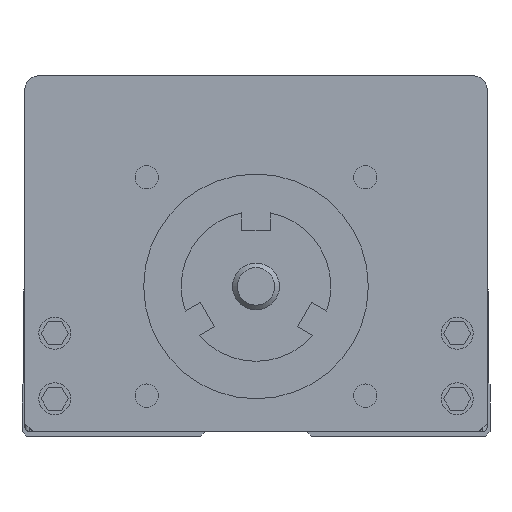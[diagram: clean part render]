
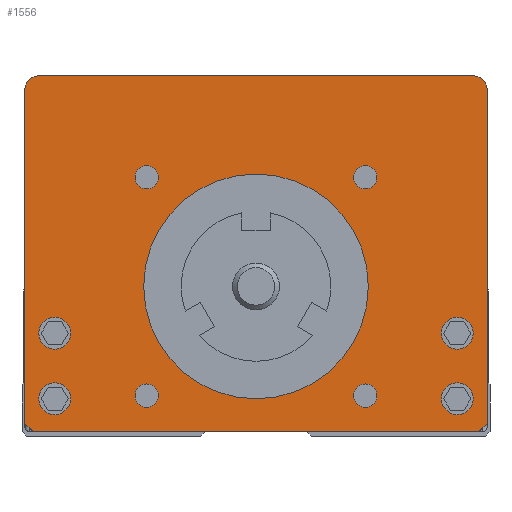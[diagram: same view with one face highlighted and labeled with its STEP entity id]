
A CAD part, front view. The second image highlights one B-rep face of the part: STEP entity #1556.
In plain terms, the highlighted planar face has unit normal (0, -1, 0).
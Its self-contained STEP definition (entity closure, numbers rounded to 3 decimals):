
#1556=ADVANCED_FACE('',(#4165,#4166,#4167,#4168,#4169,#4170,#4171,#4172,
#4173,#4174),#2031,.F.);
#2031=PLANE('',#11381);
#2403=LINE('',#15621,#3291);
#2436=LINE('',#15786,#3324);
#2450=LINE('',#15822,#3338);
#2626=LINE('',#16857,#3516);
#2635=LINE('',#16882,#3525);
#2636=LINE('',#16884,#3526);
#3291=VECTOR('',#12490,1.);
#3324=VECTOR('',#12657,1.);
#3338=VECTOR('',#12685,1.);
#3516=VECTOR('',#13423,1.);
#3525=VECTOR('',#13444,1.);
#3526=VECTOR('',#13447,1.);
#4165=FACE_BOUND('',#4667,.T.);
#4166=FACE_BOUND('',#4668,.T.);
#4167=FACE_BOUND('',#4669,.T.);
#4168=FACE_BOUND('',#4670,.T.);
#4169=FACE_BOUND('',#4671,.T.);
#4170=FACE_BOUND('',#4672,.T.);
#4171=FACE_BOUND('',#4673,.T.);
#4172=FACE_BOUND('',#4674,.T.);
#4173=FACE_BOUND('',#4675,.T.);
#4174=FACE_BOUND('',#4676,.T.);
#4667=EDGE_LOOP('',(#6391,#6392,#6393,#6394,#6395,#6396,#6397,#6398));
#4668=EDGE_LOOP('',(#6399));
#4669=EDGE_LOOP('',(#6400));
#4670=EDGE_LOOP('',(#6401));
#4671=EDGE_LOOP('',(#6402));
#4672=EDGE_LOOP('',(#6403));
#4673=EDGE_LOOP('',(#6404));
#4674=EDGE_LOOP('',(#6405));
#4675=EDGE_LOOP('',(#6406));
#4676=EDGE_LOOP('',(#6407));
#6391=ORIENTED_EDGE('',*,*,#9688,.F.);
#6392=ORIENTED_EDGE('',*,*,#9689,.F.);
#6393=ORIENTED_EDGE('',*,*,#9321,.F.);
#6394=ORIENTED_EDGE('',*,*,#9675,.F.);
#6395=ORIENTED_EDGE('',*,*,#9254,.F.);
#6396=ORIENTED_EDGE('',*,*,#9687,.F.);
#6397=ORIENTED_EDGE('',*,*,#9339,.F.);
#6398=ORIENTED_EDGE('',*,*,#9690,.F.);
#6399=ORIENTED_EDGE('',*,*,#9642,.F.);
#6400=ORIENTED_EDGE('',*,*,#9607,.F.);
#6401=ORIENTED_EDGE('',*,*,#9605,.F.);
#6402=ORIENTED_EDGE('',*,*,#9643,.F.);
#6403=ORIENTED_EDGE('',*,*,#9645,.F.);
#6404=ORIENTED_EDGE('',*,*,#9603,.F.);
#6405=ORIENTED_EDGE('',*,*,#9602,.F.);
#6406=ORIENTED_EDGE('',*,*,#9601,.F.);
#6407=ORIENTED_EDGE('',*,*,#9600,.F.);
#8176=VERTEX_POINT('',#15620);
#8177=VERTEX_POINT('',#15622);
#8237=VERTEX_POINT('',#15785);
#8238=VERTEX_POINT('',#15787);
#8252=VERTEX_POINT('',#15821);
#8253=VERTEX_POINT('',#15823);
#8429=VERTEX_POINT('',#16626);
#8430=VERTEX_POINT('',#16629);
#8431=VERTEX_POINT('',#16632);
#8432=VERTEX_POINT('',#16635);
#8434=VERTEX_POINT('',#16640);
#8436=VERTEX_POINT('',#16645);
#8455=VERTEX_POINT('',#16769);
#8456=VERTEX_POINT('',#16772);
#8458=VERTEX_POINT('',#16777);
#8479=VERTEX_POINT('',#16885);
#8480=VERTEX_POINT('',#16886);
#9254=EDGE_CURVE('',#8176,#8177,#2403,.T.);
#9321=EDGE_CURVE('',#8237,#8238,#2436,.T.);
#9339=EDGE_CURVE('',#8252,#8253,#2450,.T.);
#9600=EDGE_CURVE('',#8429,#8429,#10596,.T.);
#9601=EDGE_CURVE('',#8430,#8430,#10597,.T.);
#9602=EDGE_CURVE('',#8431,#8431,#10598,.T.);
#9603=EDGE_CURVE('',#8432,#8432,#10599,.T.);
#9605=EDGE_CURVE('',#8434,#8434,#10601,.T.);
#9607=EDGE_CURVE('',#8436,#8436,#10603,.T.);
#9642=EDGE_CURVE('',#8455,#8455,#10610,.T.);
#9643=EDGE_CURVE('',#8456,#8456,#10611,.T.);
#9645=EDGE_CURVE('',#8458,#8458,#10613,.T.);
#9675=EDGE_CURVE('',#8177,#8237,#2626,.T.);
#9687=EDGE_CURVE('',#8253,#8176,#2635,.T.);
#9688=EDGE_CURVE('',#8479,#8480,#2636,.T.);
#9689=EDGE_CURVE('',#8238,#8479,#10632,.T.);
#9690=EDGE_CURVE('',#8480,#8252,#10633,.T.);
#10596=CIRCLE('',#11302,1.25);
#10597=CIRCLE('',#11304,1.25);
#10598=CIRCLE('',#11306,1.25);
#10599=CIRCLE('',#11308,1.25);
#10601=CIRCLE('',#11311,1.7);
#10603=CIRCLE('',#11314,1.7);
#10610=CIRCLE('',#11336,12.);
#10611=CIRCLE('',#11338,1.7);
#10613=CIRCLE('',#11341,1.7);
#10632=CIRCLE('',#11379,1.5);
#10633=CIRCLE('',#11380,1.5);
#11302=AXIS2_PLACEMENT_3D('',#16625,#13249,#13250);
#11304=AXIS2_PLACEMENT_3D('',#16628,#13253,#13254);
#11306=AXIS2_PLACEMENT_3D('',#16631,#13257,#13258);
#11308=AXIS2_PLACEMENT_3D('',#16634,#13261,#13262);
#11311=AXIS2_PLACEMENT_3D('',#16639,#13267,#13268);
#11314=AXIS2_PLACEMENT_3D('',#16644,#13273,#13274);
#11336=AXIS2_PLACEMENT_3D('',#16768,#13342,#13343);
#11338=AXIS2_PLACEMENT_3D('',#16771,#13346,#13347);
#11341=AXIS2_PLACEMENT_3D('',#16776,#13352,#13353);
#11379=AXIS2_PLACEMENT_3D('',#16887,#13448,#13449);
#11380=AXIS2_PLACEMENT_3D('',#16888,#13450,#13451);
#11381=AXIS2_PLACEMENT_3D('',#16889,#13452,#13453);
#12490=DIRECTION('',(-1.,0.,0.));
#12657=DIRECTION('',(0.,0.,1.));
#12685=DIRECTION('',(0.,0.,-1.));
#13249=DIRECTION('',(0.,-1.,0.));
#13250=DIRECTION('',(1.,0.,0.));
#13253=DIRECTION('',(0.,-1.,0.));
#13254=DIRECTION('',(1.,0.,0.));
#13257=DIRECTION('',(0.,-1.,0.));
#13258=DIRECTION('',(1.,0.,0.));
#13261=DIRECTION('',(0.,-1.,0.));
#13262=DIRECTION('',(1.,0.,0.));
#13267=DIRECTION('',(0.,-1.,0.));
#13268=DIRECTION('',(1.,0.,0.));
#13273=DIRECTION('',(0.,-1.,0.));
#13274=DIRECTION('',(1.,0.,0.));
#13342=DIRECTION('',(0.,-1.,0.));
#13343=DIRECTION('',(1.,0.,0.));
#13346=DIRECTION('',(0.,-1.,0.));
#13347=DIRECTION('',(1.,0.,0.));
#13352=DIRECTION('',(0.,-1.,0.));
#13353=DIRECTION('',(1.,0.,0.));
#13423=DIRECTION('',(-0.707,0.,0.707));
#13444=DIRECTION('',(-0.707,0.,-0.707));
#13447=DIRECTION('',(1.,0.,0.));
#13448=DIRECTION('',(0.,1.,0.));
#13449=DIRECTION('',(-1.,0.,0.));
#13450=DIRECTION('',(0.,1.,0.));
#13451=DIRECTION('',(0.,0.,1.));
#13452=DIRECTION('',(0.,1.,0.));
#13453=DIRECTION('',(1.,0.,0.));
#15620=CARTESIAN_POINT('',(23.8,50.,0.));
#15621=CARTESIAN_POINT('',(23.8,50.,0.));
#15622=CARTESIAN_POINT('',(-23.8,50.,0.));
#15785=CARTESIAN_POINT('',(-24.7,50.,0.9));
#15786=CARTESIAN_POINT('',(-24.7,50.,0.9));
#15787=CARTESIAN_POINT('',(-24.7,50.,36.5));
#15821=CARTESIAN_POINT('',(24.7,50.,36.5));
#15822=CARTESIAN_POINT('',(24.7,50.,36.5));
#15823=CARTESIAN_POINT('',(24.7,50.,0.9));
#16625=CARTESIAN_POINT('',(-11.667,50.,27.167));
#16626=CARTESIAN_POINT('',(-10.417,50.,27.167));
#16628=CARTESIAN_POINT('',(-11.667,50.,3.833));
#16629=CARTESIAN_POINT('',(-10.417,50.,3.833));
#16631=CARTESIAN_POINT('',(11.667,50.,3.833));
#16632=CARTESIAN_POINT('',(12.917,50.,3.833));
#16634=CARTESIAN_POINT('',(11.667,50.,27.167));
#16635=CARTESIAN_POINT('',(12.917,50.,27.167));
#16639=CARTESIAN_POINT('',(21.5,50.,10.5));
#16640=CARTESIAN_POINT('',(23.2,50.,10.5));
#16644=CARTESIAN_POINT('',(21.5,50.,3.5));
#16645=CARTESIAN_POINT('',(23.2,50.,3.5));
#16768=CARTESIAN_POINT('',(0.,50.,15.5));
#16769=CARTESIAN_POINT('',(12.,50.,15.5));
#16771=CARTESIAN_POINT('',(-21.5,50.,10.5));
#16772=CARTESIAN_POINT('',(-19.8,50.,10.5));
#16776=CARTESIAN_POINT('',(-21.5,50.,3.5));
#16777=CARTESIAN_POINT('',(-19.8,50.,3.5));
#16857=CARTESIAN_POINT('',(-23.8,50.,0.));
#16882=CARTESIAN_POINT('',(24.7,50.,0.9));
#16884=CARTESIAN_POINT('',(-23.2,50.,38.));
#16885=CARTESIAN_POINT('',(-23.2,50.,38.));
#16886=CARTESIAN_POINT('',(23.2,50.,38.));
#16887=CARTESIAN_POINT('',(-23.2,50.,36.5));
#16888=CARTESIAN_POINT('',(23.2,50.,36.5));
#16889=CARTESIAN_POINT('',(0.,50.,19.));
